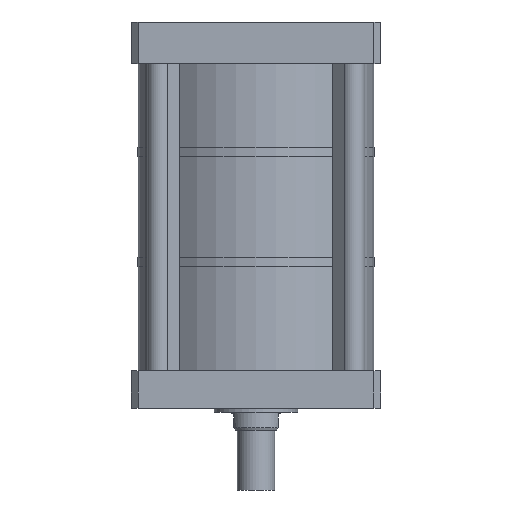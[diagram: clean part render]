
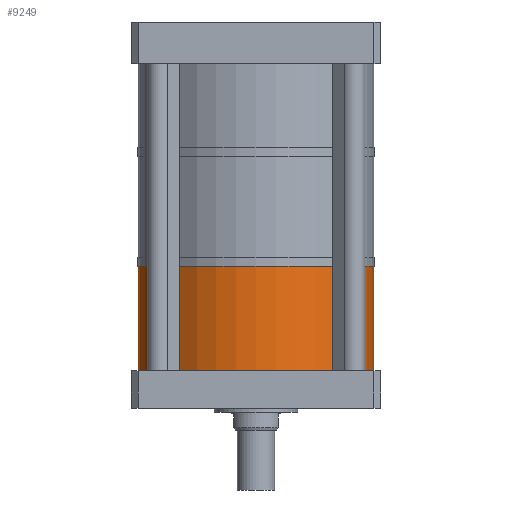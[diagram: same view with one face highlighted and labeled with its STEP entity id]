
A CAD part, front view. The second image highlights one B-rep face of the part: STEP entity #9249.
In plain terms, the highlighted cylindrical face has radius 85 mm (diameter 170 mm), a partial arc.
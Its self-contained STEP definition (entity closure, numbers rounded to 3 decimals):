
#1101 = CARTESIAN_POINT ( 'NONE',  ( 0., 0., -221.5 ) ) ;
#1435 = LINE ( 'NONE', #4197, #3427 ) ;
#1636 = AXIS2_PLACEMENT_3D ( 'NONE', #3592, #8698, #4350 ) ;
#1850 = VERTEX_POINT ( 'NONE', #6744 ) ;
#1863 = ORIENTED_EDGE ( 'NONE', *, *, #2401, .F. ) ;
#2112 = LINE ( 'NONE', #4836, #7979 ) ;
#2257 = CARTESIAN_POINT ( 'NONE',  ( 85., 0., -221.5 ) ) ;
#2375 = CARTESIAN_POINT ( 'NONE',  ( 0., 0., -221.5 ) ) ;
#2401 = EDGE_CURVE ( 'NONE', #9461, #1850, #5038, .T. ) ;
#2556 = EDGE_CURVE ( 'NONE', #9461, #3877, #2112, .T. ) ;
#2610 = DIRECTION ( 'NONE',  ( 1., 0., 0. ) ) ;
#3130 = DIRECTION ( 'NONE',  ( -1., 0., 0. ) ) ;
#3274 = AXIS2_PLACEMENT_3D ( 'NONE', #1101, #9169, #2610 ) ;
#3427 = VECTOR ( 'NONE', #8542, 1000. ) ;
#3534 = EDGE_CURVE ( 'NONE', #3877, #9418, #6002, .T. ) ;
#3592 = CARTESIAN_POINT ( 'NONE',  ( 0., 0., -146. ) ) ;
#3877 = VERTEX_POINT ( 'NONE', #8662 ) ;
#3888 = AXIS2_PLACEMENT_3D ( 'NONE', #2375, #7522, #3130 ) ;
#3979 = ORIENTED_EDGE ( 'NONE', *, *, #4821, .F. ) ;
#4197 = CARTESIAN_POINT ( 'NONE',  ( -85., 0., -221.5 ) ) ;
#4350 = DIRECTION ( 'NONE',  ( -1., 0., 0. ) ) ;
#4821 = EDGE_CURVE ( 'NONE', #1850, #9418, #1435, .T. ) ;
#4836 = CARTESIAN_POINT ( 'NONE',  ( 85., 0., -221.5 ) ) ;
#5038 = CIRCLE ( 'NONE', #3888, 85. ) ;
#5326 = ORIENTED_EDGE ( 'NONE', *, *, #2556, .T. ) ;
#5667 = ORIENTED_EDGE ( 'NONE', *, *, #3534, .T. ) ;
#6002 = CIRCLE ( 'NONE', #1636, 85. ) ;
#6249 = DIRECTION ( 'NONE',  ( 0., 0., 1. ) ) ;
#6654 = CARTESIAN_POINT ( 'NONE',  ( -85., 0., -146. ) ) ;
#6744 = CARTESIAN_POINT ( 'NONE',  ( -85., 0., -221.5 ) ) ;
#7343 = CYLINDRICAL_SURFACE ( 'NONE', #3274, 85. ) ;
#7392 = EDGE_LOOP ( 'NONE', ( #3979, #1863, #5326, #5667 ) ) ;
#7522 = DIRECTION ( 'NONE',  ( 0., 0., -1. ) ) ;
#7979 = VECTOR ( 'NONE', #6249, 1000. ) ;
#8542 = DIRECTION ( 'NONE',  ( 0., 0., 1. ) ) ;
#8662 = CARTESIAN_POINT ( 'NONE',  ( 85., 0., -146. ) ) ;
#8698 = DIRECTION ( 'NONE',  ( 0., 0., -1. ) ) ;
#9169 = DIRECTION ( 'NONE',  ( 0., 0., 1. ) ) ;
#9249 = ADVANCED_FACE ( 'NONE', ( #9506 ), #7343, .T. ) ;
#9418 = VERTEX_POINT ( 'NONE', #6654 ) ;
#9461 = VERTEX_POINT ( 'NONE', #2257 ) ;
#9506 = FACE_OUTER_BOUND ( 'NONE', #7392, .T. ) ;
